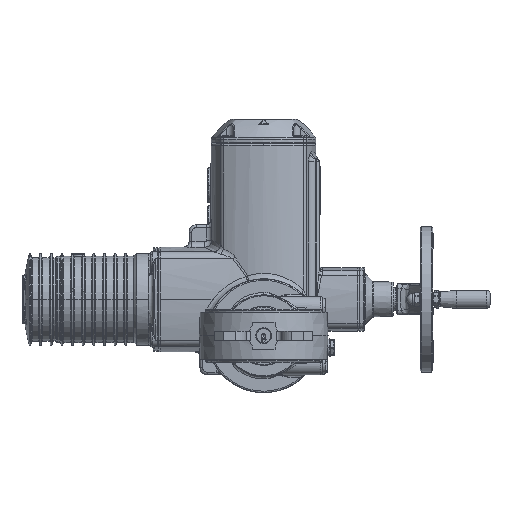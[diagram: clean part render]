
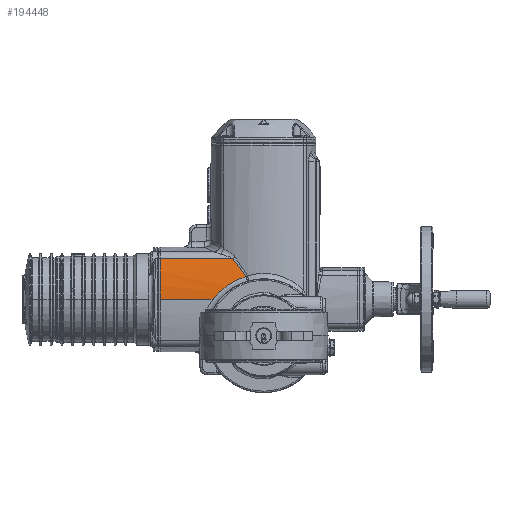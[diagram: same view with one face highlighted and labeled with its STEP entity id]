
A CAD part, front view. The second image highlights one B-rep face of the part: STEP entity #194448.
In plain terms, the highlighted cylindrical face has radius 190 mm (diameter 380 mm), a partial arc.
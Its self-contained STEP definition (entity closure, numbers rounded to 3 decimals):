
#6963 = CARTESIAN_POINT ( 'NONE',  ( -55.608, 245., 40. ) ) ;
#11278 = DIRECTION ( 'NONE',  ( -1., 0., 0. ) ) ;
#12555 = CARTESIAN_POINT ( 'NONE',  ( -31.436, 246.079, 60.229 ) ) ;
#13082 = VECTOR ( 'NONE', #11278, 1000. ) ;
#13699 = CARTESIAN_POINT ( 'NONE',  ( -24.748, 247.612, 72.24 ) ) ;
#14937 = CARTESIAN_POINT ( 'NONE',  ( -113.757, 435., 40. ) ) ;
#17434 = CYLINDRICAL_SURFACE ( 'NONE', #160041, 190. ) ;
#19665 = B_SPLINE_CURVE_WITH_KNOTS ( 'NONE', 3,
 ( #6963, #98082, #88457, #41564, #28988, #87810, #134795, #195078, #57388, #195725, #164018, #193136, #180545, #71940, #104359, #44170, #149407, #150061, #163355, #12555, #59324, #118340, #178612, #118979, #105004, #165308, #148093, #74548, #132190, #148747, #194437, #103047, #58684 ),
 .UNSPECIFIED., .F., .F.,
 ( 4, 2, 2, 2, 2, 2, 2, 2, 2, 2, 2, 2, 1, 1, 1, 2, 2, 4 ),
 ( 0.519, 0.579, 0.609, 0.624, 0.639, 0.699, 0.729, 0.759, 0.819, 0.85, 0.88, 0.94, 0.955, 0.962, 0.966, 0.968, 0.97, 1. ),
 .UNSPECIFIED. ) ;
#25976 = ORIENTED_EDGE ( 'NONE', *, *, #190300, .T. ) ;
#28795 = DIRECTION ( 'NONE',  ( 1., 0., 0. ) ) ;
#28988 = CARTESIAN_POINT ( 'NONE',  ( -50.841, 245.085, 45.736 ) ) ;
#31595 = FACE_OUTER_BOUND ( 'NONE', #134423, .T. ) ;
#37152 = DIRECTION ( 'NONE',  ( 1., 0., 0. ) ) ;
#38583 = CIRCLE ( 'NONE', #96691, 190. ) ;
#41564 = CARTESIAN_POINT ( 'NONE',  ( -51.473, 245.066, 45.048 ) ) ;
#41655 = DIRECTION ( 'NONE',  ( 0., -1., 0. ) ) ;
#43119 = VERTEX_POINT ( 'NONE', #82177 ) ;
#43605 = CARTESIAN_POINT ( 'NONE',  ( -18.683, 435., 40. ) ) ;
#44170 = CARTESIAN_POINT ( 'NONE',  ( -37.954, 245.718, 56.533 ) ) ;
#49346 = CARTESIAN_POINT ( 'NONE',  ( -55.608, 245., 40. ) ) ;
#57388 = CARTESIAN_POINT ( 'NONE',  ( -48.545, 245.171, 48.076 ) ) ;
#58684 = CARTESIAN_POINT ( 'NONE',  ( -19.183, 246.648, 64.97 ) ) ;
#59324 = CARTESIAN_POINT ( 'NONE',  ( -30.592, 246.124, 60.645 ) ) ;
#65577 = CARTESIAN_POINT ( 'NONE',  ( -74.01, 250.353, 84.785 ) ) ;
#71472 = CARTESIAN_POINT ( 'NONE',  ( -113.757, 245., 40. ) ) ;
#71940 = CARTESIAN_POINT ( 'NONE',  ( -41.042, 245.545, 54.397 ) ) ;
#73807 = VERTEX_POINT ( 'NONE', #173720 ) ;
#74548 = CARTESIAN_POINT ( 'NONE',  ( -22.106, 246.531, 64.075 ) ) ;
#82177 = CARTESIAN_POINT ( 'NONE',  ( -34.263, 250.353, 84.785 ) ) ;
#86334 = CARTESIAN_POINT ( 'NONE',  ( -29.774, 248.913, 78.845 ) ) ;
#86906 = VECTOR ( 'NONE', #37152, 1000. ) ;
#87810 = CARTESIAN_POINT ( 'NONE',  ( -49.871, 245.119, 46.749 ) ) ;
#88457 = CARTESIAN_POINT ( 'NONE',  ( -53.323, 245.018, 42.948 ) ) ;
#93541 = ORIENTED_EDGE ( 'NONE', *, *, #121261, .T. ) ;
#96437 = LINE ( 'NONE', #65577, #86906 ) ;
#96691 = AXIS2_PLACEMENT_3D ( 'NONE', #14937, #28795, #106124 ) ;
#98082 = CARTESIAN_POINT ( 'NONE',  ( -54.496, 245., 41.498 ) ) ;
#98208 = LINE ( 'NONE', #161414, #13082 ) ;
#101764 = B_SPLINE_CURVE_WITH_KNOTS ( 'NONE', 3,
 ( #177149, #13699, #86334, #192978 ),
 .UNSPECIFIED., .F., .F.,
 ( 4, 4 ),
 ( 0., 1. ),
 .UNSPECIFIED. ) ;
#103047 = CARTESIAN_POINT ( 'NONE',  ( -20.122, 246.612, 64.704 ) ) ;
#104359 = CARTESIAN_POINT ( 'NONE',  ( -40.277, 245.588, 54.944 ) ) ;
#104700 = VERTEX_POINT ( 'NONE', #49346 ) ;
#105004 = CARTESIAN_POINT ( 'NONE',  ( -23.441, 246.474, 63.621 ) ) ;
#106124 = DIRECTION ( 'NONE',  ( 0., 1., 0. ) ) ;
#117662 = VERTEX_POINT ( 'NONE', #71472 ) ;
#118340 = CARTESIAN_POINT ( 'NONE',  ( -28.039, 246.257, 61.838 ) ) ;
#118979 = CARTESIAN_POINT ( 'NONE',  ( -24.104, 246.444, 63.382 ) ) ;
#121261 = EDGE_CURVE ( 'NONE', #73807, #117662, #38583, .T. ) ;
#124261 = VERTEX_POINT ( 'NONE', #168728 ) ;
#132190 = CARTESIAN_POINT ( 'NONE',  ( -21.994, 246.536, 64.112 ) ) ;
#132548 = EDGE_CURVE ( 'NONE', #124261, #43119, #101764, .T. ) ;
#134423 = EDGE_LOOP ( 'NONE', ( #193463, #25976, #194537, #189280, #93541 ) ) ;
#134795 = CARTESIAN_POINT ( 'NONE',  ( -49.543, 245.132, 47.083 ) ) ;
#137784 = EDGE_CURVE ( 'NONE', #104700, #117662, #98208, .T. ) ;
#148093 = CARTESIAN_POINT ( 'NONE',  ( -22.273, 246.524, 64.019 ) ) ;
#148747 = CARTESIAN_POINT ( 'NONE',  ( -21.936, 246.538, 64.131 ) ) ;
#149407 = CARTESIAN_POINT ( 'NONE',  ( -36.367, 245.808, 57.527 ) ) ;
#149486 = DIRECTION ( 'NONE',  ( -1., 0., 0. ) ) ;
#150061 = CARTESIAN_POINT ( 'NONE',  ( -33.926, 245.944, 58.919 ) ) ;
#160041 = AXIS2_PLACEMENT_3D ( 'NONE', #43605, #149486, #41655 ) ;
#161414 = CARTESIAN_POINT ( 'NONE',  ( -18.683, 245., 40. ) ) ;
#161604 = EDGE_CURVE ( 'NONE', #73807, #43119, #96437, .T. ) ;
#163355 = CARTESIAN_POINT ( 'NONE',  ( -33.103, 245.989, 59.367 ) ) ;
#164018 = CARTESIAN_POINT ( 'NONE',  ( -45.458, 245.311, 50.933 ) ) ;
#165308 = CARTESIAN_POINT ( 'NONE',  ( -22.663, 246.508, 63.889 ) ) ;
#168728 = CARTESIAN_POINT ( 'NONE',  ( -19.183, 246.648, 64.97 ) ) ;
#173720 = CARTESIAN_POINT ( 'NONE',  ( -113.757, 250.353, 84.785 ) ) ;
#177149 = CARTESIAN_POINT ( 'NONE',  ( -19.183, 246.648, 64.97 ) ) ;
#178612 = CARTESIAN_POINT ( 'NONE',  ( -26.306, 246.343, 62.563 ) ) ;
#180545 = CARTESIAN_POINT ( 'NONE',  ( -42.544, 245.463, 53.276 ) ) ;
#189280 = ORIENTED_EDGE ( 'NONE', *, *, #161604, .F. ) ;
#190300 = EDGE_CURVE ( 'NONE', #104700, #124261, #19665, .T. ) ;
#192978 = CARTESIAN_POINT ( 'NONE',  ( -34.263, 250.353, 84.785 ) ) ;
#193136 = CARTESIAN_POINT ( 'NONE',  ( -43.282, 245.424, 52.702 ) ) ;
#193463 = ORIENTED_EDGE ( 'NONE', *, *, #137784, .F. ) ;
#194437 = CARTESIAN_POINT ( 'NONE',  ( -21.021, 246.577, 64.43 ) ) ;
#194448 = ADVANCED_FACE ( 'NONE', ( #31595 ), #17434, .T. ) ;
#194537 = ORIENTED_EDGE ( 'NONE', *, *, #132548, .T. ) ;
#195078 = CARTESIAN_POINT ( 'NONE',  ( -48.881, 245.158, 47.746 ) ) ;
#195725 = CARTESIAN_POINT ( 'NONE',  ( -46.858, 245.243, 49.696 ) ) ;
